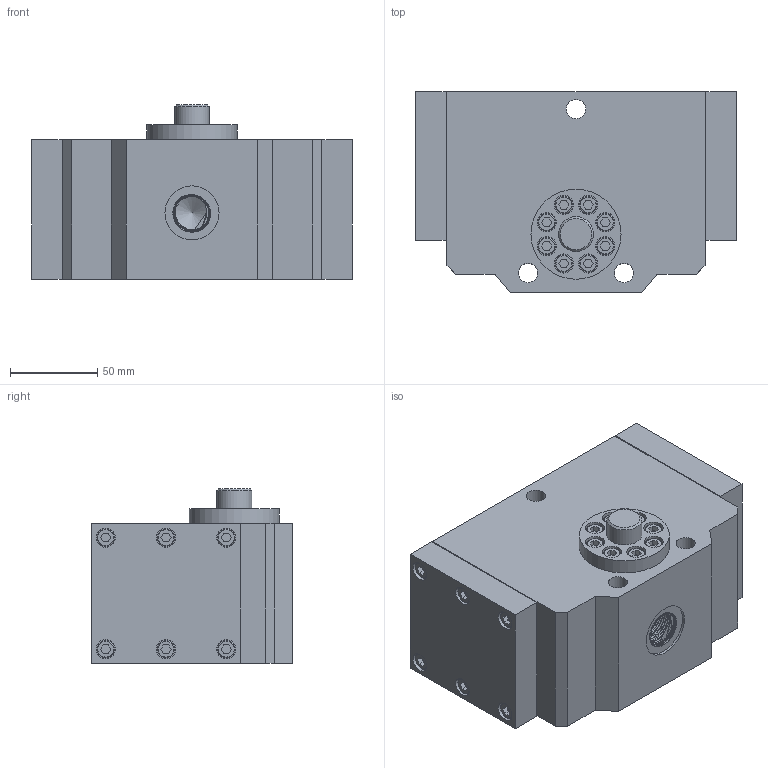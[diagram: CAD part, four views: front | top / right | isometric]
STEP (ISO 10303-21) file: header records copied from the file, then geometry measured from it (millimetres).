
FILE_DESCRIPTION(/* description */ (''),/* implementation_level */ '2;1');
FILE_NAME(/* name */ '1-2.prt.stp',/* time_stamp */ '2023-05-03T15:26:53+08:00',/* author */ (''),/* organization */ (''),/* preprocessor_version */ 'ST-DEVELOPER v16.7',/* originating_system */ 'SIEMENS PLM Software NX 12.0',/* authorisation */ '');
FILE_SCHEMA (('AUTOMOTIVE_DESIGN { 1 0 10303 214 3 1 1 1 }'));
Length unit declared in the file: millimetre
Products named in the file (1): 1-2
Bounding box: 184 x 115 x 100 mm (x, y, z)
Volume: 1514418.8 mm3; surface area: 168152.6 mm2
Topology: 24 solids, 24 shells, 573 faces, 1398 edges, 920 vertices
Faces by surface type: plane 344, cylinder 156, cone 44, torus 20, bspline 9
Full cylindrical faces by diameter (mm): 5 x20, 6 x20, 7 x20, 10 x20, 11 x23, 20 x2, 26 x2, 31 x1, 51.631 x2
Entity records: 33064 total; most frequent: CARTESIAN_POINT 20290, DIRECTION 2597, ORIENTED_EDGE 2226, EDGE_CURVE 1113, AXIS2_PLACEMENT_3D 955, EDGE_LOOP 902, VERTEX_POINT 852, LINE 687
